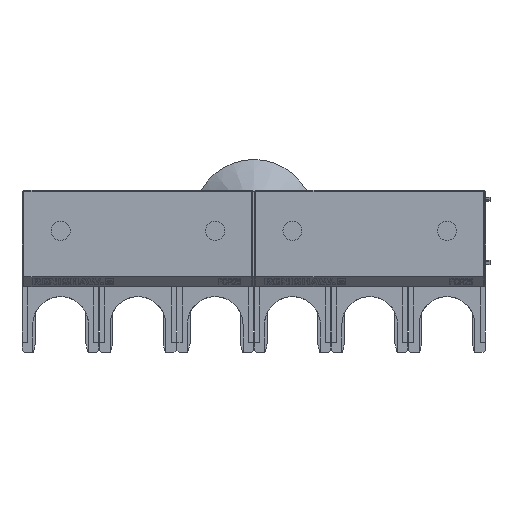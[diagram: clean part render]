
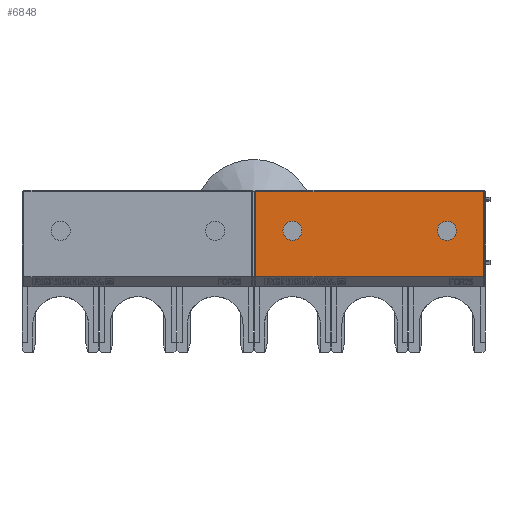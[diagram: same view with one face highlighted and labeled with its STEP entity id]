
A CAD part, top view. The second image highlights one B-rep face of the part: STEP entity #6848.
In plain terms, the highlighted planar face has unit normal (0, 0, 1).
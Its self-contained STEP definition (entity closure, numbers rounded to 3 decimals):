
#4126=LINE('',#19501,#5368);
#4398=LINE('',#20803,#5640);
#4407=LINE('',#21025,#5649);
#4408=LINE('',#21027,#5650);
#5368=VECTOR('',#16338,1.);
#5640=VECTOR('',#17032,1.);
#5649=VECTOR('',#17051,1.);
#5650=VECTOR('',#17052,1.);
#6421=FACE_BOUND('',#8279,.T.);
#6422=FACE_BOUND('',#8280,.T.);
#6423=FACE_BOUND('',#8281,.T.);
#6848=ADVANCED_FACE('',(#6421,#6422,#6423),#7286,.T.);
#7286=PLANE('',#15277);
#8279=EDGE_LOOP('',(#9895));
#8280=EDGE_LOOP('',(#9896));
#8281=EDGE_LOOP('',(#9897,#9898,#9899,#9900));
#9895=ORIENTED_EDGE('',*,*,#13417,.F.);
#9896=ORIENTED_EDGE('',*,*,#13418,.F.);
#9897=ORIENTED_EDGE('',*,*,#13826,.T.);
#9898=ORIENTED_EDGE('',*,*,#13789,.T.);
#9899=ORIENTED_EDGE('',*,*,#13429,.T.);
#9900=ORIENTED_EDGE('',*,*,#13827,.T.);
#12106=VERTEX_POINT('',#19455);
#12107=VERTEX_POINT('',#19458);
#12113=VERTEX_POINT('',#19491);
#12118=VERTEX_POINT('',#19500);
#12382=VERTEX_POINT('',#20804);
#12418=VERTEX_POINT('',#21026);
#13417=EDGE_CURVE('',#12106,#12106,#14712,.T.);
#13418=EDGE_CURVE('',#12107,#12107,#14713,.T.);
#13429=EDGE_CURVE('',#12113,#12118,#4126,.T.);
#13789=EDGE_CURVE('',#12382,#12113,#4398,.T.);
#13826=EDGE_CURVE('',#12418,#12382,#4407,.T.);
#13827=EDGE_CURVE('',#12118,#12418,#4408,.T.);
#14712=CIRCLE('',#15055,4.35);
#14713=CIRCLE('',#15057,4.35);
#15055=AXIS2_PLACEMENT_3D('',#19454,#16318,#16319);
#15057=AXIS2_PLACEMENT_3D('',#19457,#16322,#16323);
#15277=AXIS2_PLACEMENT_3D('',#21028,#17053,#17054);
#16318=DIRECTION('',(0.,0.,1.));
#16319=DIRECTION('',(0.,-1.,0.));
#16322=DIRECTION('',(0.,0.,1.));
#16323=DIRECTION('',(0.,-1.,0.));
#16338=DIRECTION('',(-1.,0.,0.));
#17032=DIRECTION('',(0.,1.,0.));
#17051=DIRECTION('',(1.,0.,0.));
#17052=DIRECTION('',(0.,-1.,0.));
#17053=DIRECTION('',(0.,0.,1.));
#17054=DIRECTION('',(0.,-1.,0.));
#19454=CARTESIAN_POINT('',(176.25,42.75,18.21));
#19455=CARTESIAN_POINT('',(176.25,38.4,18.21));
#19457=CARTESIAN_POINT('',(105.75,42.75,18.21));
#19458=CARTESIAN_POINT('',(105.75,38.4,18.21));
#19491=CARTESIAN_POINT('',(192.975,60.85,18.21));
#19500=CARTESIAN_POINT('',(89.025,60.85,18.21));
#19501=CARTESIAN_POINT('',(141.,60.85,18.21));
#20803=CARTESIAN_POINT('',(192.975,60.85,18.21));
#20804=CARTESIAN_POINT('',(192.975,21.75,18.21));
#21025=CARTESIAN_POINT('',(141.,21.75,18.21));
#21026=CARTESIAN_POINT('',(89.025,21.75,18.21));
#21027=CARTESIAN_POINT('',(89.025,21.75,18.21));
#21028=CARTESIAN_POINT('',(141.,39.25,18.21));
